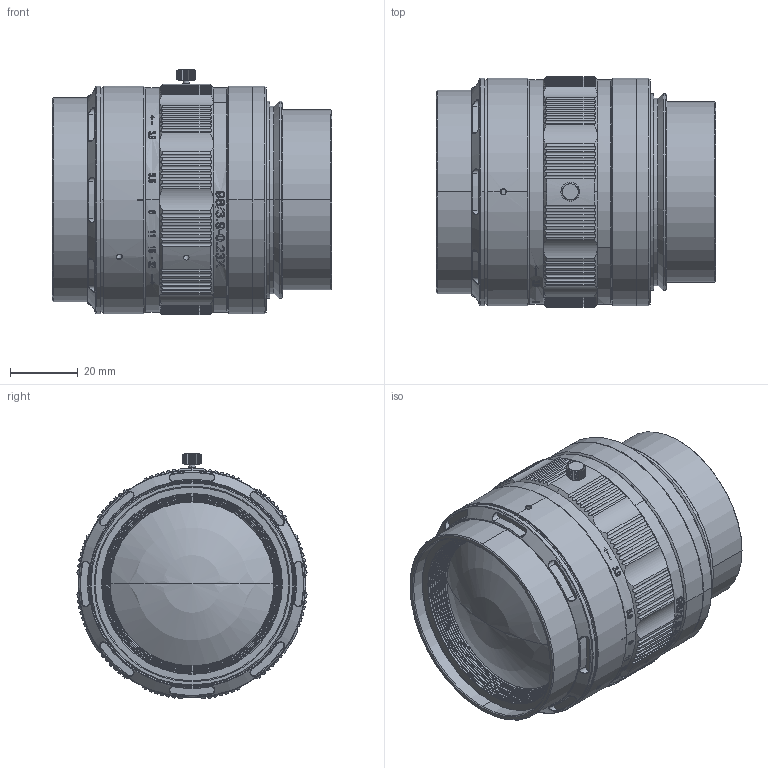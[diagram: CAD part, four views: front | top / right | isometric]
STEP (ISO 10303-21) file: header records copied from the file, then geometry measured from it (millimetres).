
FILE_DESCRIPTION((''),'2;1');
FILE_NAME('PRT0001','2024-06-18T19:07:32',('admin'),(''),'CREO PARAMETRIC BY PTC INC, 2020354','CREO PARAMETRIC BY PTC INC, 2020354','');
FILE_SCHEMA(('AUTOMOTIVE_DESIGN { 1 0 10303 214 1 1 1 1 }'));
Length unit declared in the file: millimetre
Products named in the file (1): PRT0001
Bounding box: 82.13 x 67.69 x 72.34 mm (x, y, z)
Volume: 230039.9 mm3; surface area: 38381.7 mm2
Topology: 1 solids, 14 shells, 1385 faces, 3599 edges, 2292 vertices
Faces by surface type: cylinder 451, bspline 408, plane 254, cone 193, torus 46, extrusion 29, sphere 4
Entity records: 56318 total; most frequent: CARTESIAN_POINT 24937, ORIENTED_EDGE 7178, DIRECTION 5243, EDGE_CURVE 3589, VERTEX_POINT 2292, AXIS2_PLACEMENT_3D 1964, EDGE_LOOP 1489, FACE_OUTER_BOUND 1385
